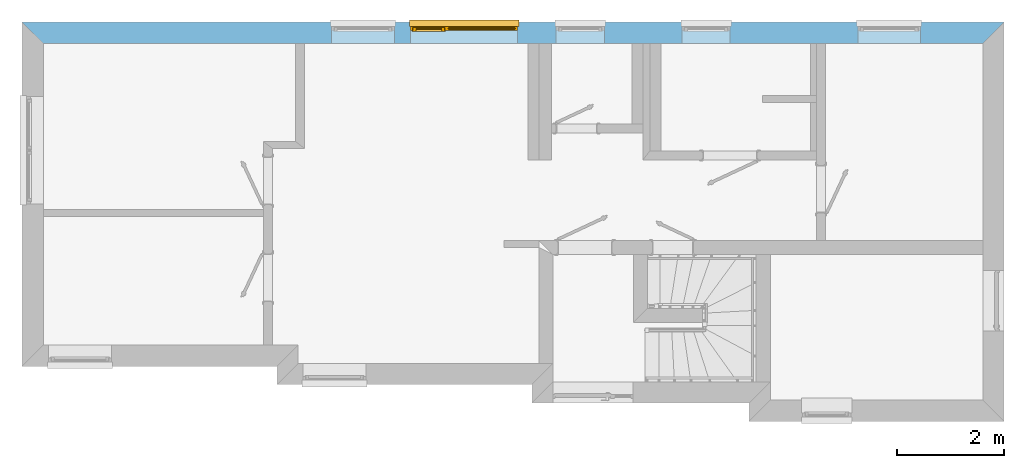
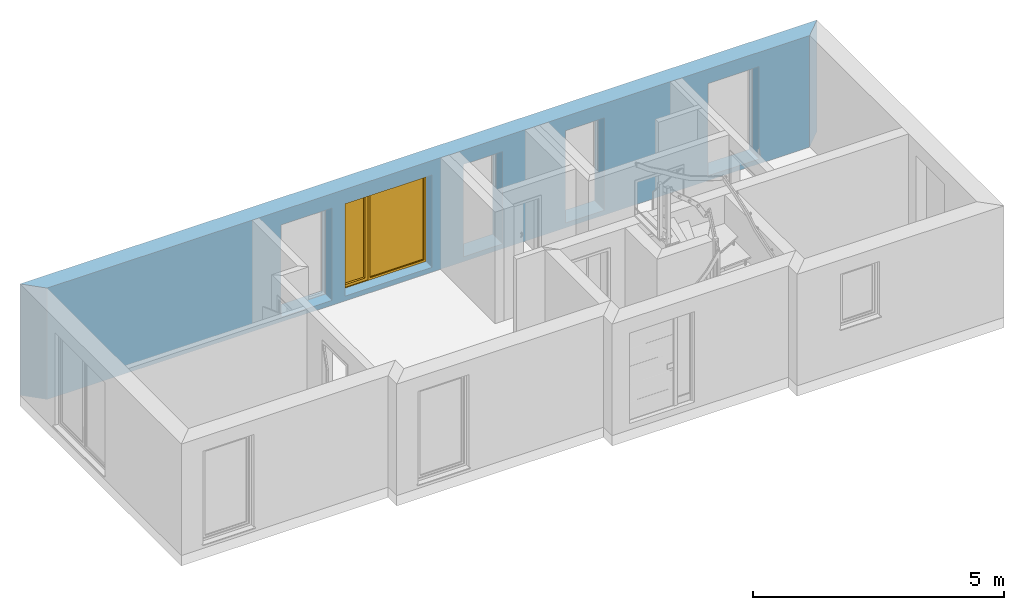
# One storey, part 8 of 13: 1 window, 5 openings, plus 1 element that does not belong to this part.
"""IFC2X3 building model written with IfcOpenShell, lengths in millimetres."""

import ifcopenshell
import ifcopenshell.guid

model = None  # the IFC model being written
_history = None  # IfcOwnerHistory: only IFC2X3 demands one
_inside = {}  # id of a spatial element -> (the spatial element, [elements in it])
_under = {}  # id of a project, library or spatial element -> (it, [spatial elements below it])
_declared = {}  # id of a project -> (the project, [libraries it declares])
_typed = {}  # id of a type object -> (the type object, [elements of that type])
_made_of = {}  # id of a material, layer set ... -> (it, [elements and type objects made of it])


def new_model(schema):
    """Start an empty IFC model of exactly this schema.

    Asked for "IFC4X3", IfcOpenShell would pick the latest addendum, in which some entities
    have other attributes; the version numbers below select the first issue.
    IFC2X3 requires an IfcOwnerHistory on every rooted entity: one is made here for all.
    """
    global model, _history
    if schema == "IFC4X3":
        model = ifcopenshell.file(schema_version=(4, 3, 0, 0))
    else:
        model = ifcopenshell.file(schema=schema)
    _inside.clear()
    _under.clear()
    _declared.clear()
    _typed.clear()
    _made_of.clear()
    _history = None
    if model.schema == "IFC2X3":
        org = make("IfcOrganization", Name="unknown")
        user = make(
            "IfcPersonAndOrganization",
            ThePerson=make("IfcPerson", FamilyName="unknown"),
            TheOrganization=org,
        )
        app = make(
            "IfcApplication",
            ApplicationDeveloper=org,
            Version="unknown",
            ApplicationFullName="unknown",
            ApplicationIdentifier="unknown",
        )
        _history = make(
            "IfcOwnerHistory",
            OwningUser=user,
            OwningApplication=app,
            ChangeAction="ADDED",
            CreationDate=0,
        )
    return model


def make(cls, **values):
    """One entity of the class cls with the attributes given. An attribute that is None is left unset."""
    return model.create_entity(
        cls, **{name: value for name, value in values.items() if value is not None}
    )


def rooted(cls, **values):
    """An entity with a GlobalId (a new one), such as an element, a storey or a relation."""
    return make(cls, GlobalId=ifcopenshell.guid.new(), OwnerHistory=_history, **values)


def si_unit(unit_type, name, prefix=None):
    """IfcSIUnit, for example si_unit("LENGTHUNIT", "METRE", prefix="MILLI")."""
    return make("IfcSIUnit", UnitType=unit_type, Prefix=prefix, Name=name)


def assignment(units):
    """IfcUnitAssignment: the units of a project."""
    return None if units is None else make("IfcUnitAssignment", Units=units)


def point(xyz):
    """IfcCartesianPoint."""
    return None if xyz is None else make("IfcCartesianPoint", Coordinates=xyz)


def direction(xyz):
    """IfcDirection."""
    return None if xyz is None else make("IfcDirection", DirectionRatios=xyz)


def frame(location, z_axis=None, x_axis=None):
    """IfcAxis2Placement3D, a coordinate frame: its origin and axes. An axis left out is left unset."""
    return make(
        "IfcAxis2Placement3D",
        Location=point(location),
        Axis=direction(z_axis),
        RefDirection=direction(x_axis),
    )


def origin_with_axes():
    """The frame at (0, 0, 0) with the z axis (0, 0, 1) and the x axis (1, 0, 0) written out."""
    return frame((0.0, 0.0, 0.0), z_axis=(0.0, 0.0, 1.0), x_axis=(1.0, 0.0, 0.0))


def place(relative_to, where):
    """IfcLocalPlacement: puts the frame where relative to a parent placement (None: the world)."""
    return make(
        "IfcLocalPlacement", PlacementRelTo=relative_to, RelativePlacement=where
    )


def context(
    kind, dimensions, precision=None, world=None, true_north=None, identifier=None
):
    """IfcGeometricRepresentationContext, for example the 3D "Model" context."""
    return make(
        "IfcGeometricRepresentationContext",
        ContextIdentifier=identifier,
        ContextType=kind,
        CoordinateSpaceDimension=dimensions,
        Precision=precision,
        WorldCoordinateSystem=world,
        TrueNorth=true_north,
    )


def project(units=None, contexts=None):
    """IfcProject with its units and contexts."""
    return rooted(
        "IfcProject",
        Name="project",
        RepresentationContexts=contexts,
        UnitsInContext=assignment(units),
    )


def spatial(cls, under=None, at=None, **own):
    """A site, building, storey or space (cls), placed at a placement, below another one or the project."""
    s = rooted(cls, ObjectPlacement=at, **own)
    if under is not None:
        _under.setdefault(under.id(), (under, []))[1].append(s)
    return s


def faces_of(points, faces, orient=None, outer=None):
    """IfcFace entities. A face is a list of loops; a loop is a list of indices into points, from 0.

    orient and outer hold one flag for each loop. By default every Orientation is true, the
    first loop of a face is its IfcFaceOuterBound and the others are IfcFaceBound.
    """
    made = []
    for i, loops in enumerate(faces):
        bounds = []
        for j, loop in enumerate(loops):
            is_outer = j == 0 if outer is None else outer[i][j]
            bounds.append(
                make(
                    "IfcFaceOuterBound" if is_outer else "IfcFaceBound",
                    Bound=make("IfcPolyLoop", Polygon=[points[k] for k in loop]),
                    Orientation=True if orient is None else orient[i][j],
                )
            )
        made.append(make("IfcFace", Bounds=bounds))
    return made


def faceted_brep(points, faces, orient=None, outer=None, voids=None):
    """IfcFacetedBrep: a solid bounded by flat faces; with voids (closed shells), ...WithVoids."""
    shared = [point(p) for p in points]
    hull = make("IfcClosedShell", CfsFaces=faces_of(shared, faces, orient, outer))
    if voids is None:
        return make("IfcFacetedBrep", Outer=hull)
    return make(
        "IfcFacetedBrepWithVoids",
        Outer=hull,
        Voids=[
            make(cls, CfsFaces=faces_of(shared, fs, o, b)) for cls, fs, o, b in voids
        ],
    )


def shape(context_of_items, identifier, shape_type, items):
    """IfcShapeRepresentation: the items that make up one representation, for example the "Body"."""
    return make(
        "IfcShapeRepresentation",
        ContextOfItems=context_of_items,
        RepresentationIdentifier=identifier,
        RepresentationType=shape_type,
        Items=items,
    )


def material(Name=None, Category=None):
    """IfcMaterial."""
    return make("IfcMaterial", Name=Name, Category=Category)


def layer(
    of_material, thickness, ventilated=None, Name=None, Category=None, Priority=None
):
    """IfcMaterialLayer: one layer of a wall or slab, of a material (None: an air gap)."""
    return make(
        "IfcMaterialLayer",
        Material=of_material,
        LayerThickness=thickness,
        IsVentilated=ventilated,
        Name=Name,
        Category=Category,
        Priority=Priority,
    )


def layer_set(layers, Name=None):
    """IfcMaterialLayerSet."""
    return make("IfcMaterialLayerSet", MaterialLayers=layers, LayerSetName=Name)


def layer_usage(for_layer_set, set_direction, sense, offset, extent=None):
    """IfcMaterialLayerSetUsage: how a layer set lies in its element."""
    return make(
        "IfcMaterialLayerSetUsage",
        ForLayerSet=for_layer_set,
        LayerSetDirection=set_direction,
        DirectionSense=sense,
        OffsetFromReferenceLine=offset,
        ReferenceExtent=extent,
    )


def made_of(thing, what):
    """Note that an element or type object is made of a material, layer set ...; save() writes the relation."""
    if what is not None:
        _made_of.setdefault(what.id(), (what, []))[1].append(thing)
    return thing


def type_object(cls, material=None, **own):
    """A type object (cls), such as IfcWallType, which elements share."""
    return made_of(rooted(cls, **own), material)


def element(
    cls,
    number,
    at=None,
    inside=None,
    cuts=None,
    type_object=None,
    material=None,
    context=None,
    identifier="Body",
    shape_type=None,
    held_by="IfcProductDefinitionShape",
    body=None,
    shapes=None,
    **own,
):
    """One element of the class cls, such as IfcWall. Its Tag is "e" and its number.

    at: its placement. inside: the storey or other place that contains it. cuts: it is an
    opening in that element (IfcRelVoidsElement). A single representation is given by context,
    identifier, shape_type and body (its items); several are given by shapes. held_by: the class
    of the entity that holds the representations. save() writes the other relations.
    """
    e = rooted(cls, Tag="e%d" % number, ObjectPlacement=at, **own)
    if body is not None:
        shapes = [shape(context, identifier, shape_type, body)]
    if shapes is not None:
        e.Representation = make(held_by, Representations=shapes)
    if inside is not None:
        _inside.setdefault(inside.id(), (inside, []))[1].append(e)
    if cuts is not None:
        rooted(
            "IfcRelVoidsElement", RelatingBuildingElement=cuts, RelatedOpeningElement=e
        )
    if type_object is not None:
        _typed.setdefault(type_object.id(), (type_object, []))[1].append(e)
    return made_of(e, material)


def fill(opening, filler):
    """IfcRelFillsElement: the door or window that sits in an opening."""
    return rooted(
        "IfcRelFillsElement",
        RelatingOpeningElement=opening,
        RelatedBuildingElement=filler,
    )


def aggregate(whole, parts):
    """IfcRelAggregates: a whole, such as a stair, and the parts it consists of."""
    return rooted("IfcRelAggregates", RelatingObject=whole, RelatedObjects=parts)


def save(model, path):
    """Write the relations noted so far, then the file.

    IfcRelAggregates (storeys below a building ...), IfcRelContainedInSpatialStructure (elements
    in a storey), IfcRelDefinesByType, IfcRelAssociatesMaterial and IfcRelDeclares: one each for
    every whole, place, type object, material and project.
    """
    for whole, parts in _under.values():
        aggregate(whole, parts)
    for where, things in _inside.values():
        rooted(
            "IfcRelContainedInSpatialStructure",
            RelatedElements=things,
            RelatingStructure=where,
        )
    for kind, things in _typed.values():
        rooted("IfcRelDefinesByType", RelatedObjects=things, RelatingType=kind)
    for what, things in _made_of.values():
        rooted("IfcRelAssociatesMaterial", RelatedObjects=things, RelatingMaterial=what)
    for by, libraries in _declared.values():
        rooted("IfcRelDeclares", RelatingContext=by, RelatedDefinitions=libraries)
    model.write(path)


model = new_model("IFC2X3")

# Units and contexts
model_context = context("Model", 3, world=origin_with_axes())
ifc_project = project(units=[si_unit("LENGTHUNIT", "METRE", prefix="MILLI")], contexts=[model_context])

# Site, building, storey
site_placement = place(None, origin_with_axes())
site = spatial("IfcSite", under=ifc_project, at=site_placement, Name="Site", CompositionType="ELEMENT")
building_placement = place(site_placement, origin_with_axes())
building = spatial("IfcBuilding", under=site, at=building_placement, Name="?", CompositionType="ELEMENT")
storey_placement = place(building_placement, origin_with_axes())
storey = spatial("IfcBuildingStorey", under=building, at=storey_placement, Name="Erdgeschoß", CompositionType="ELEMENT", Elevation=0.0)

# Wall, openings, window
ifc_material = material(Name="Material_AW")
ifc_layer = layer(ifc_material, 395.0, ventilated=False)
ifc_layer_set = layer_set([ifc_layer], Name="MaterialLayerSet_AW")
ifc_layer_usage = layer_usage(ifc_layer_set, "AXIS2", "NEGATIVE", 197.5)
wall_placement = place(storey_placement, frame((197.5, -197.5, 0.0), z_axis=(0.0, 0.0, 1.0), x_axis=(1.0, 0.0, 0.0)))
wall = element("IfcWall", 1, at=wall_placement, inside=storey, material=ifc_layer_usage, Name="AW-01", context=model_context, shape_type="Brep", body=[
    faceted_brep([(17707.5008600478, -197.5, 0.0), (17707.5008600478, -197.5, 2707.0), (197.5, -197.5, 2707.0), (197.5, -197.5, 0.0), (18102.5001275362, 197.499999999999, 0.0), (18102.5001275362, 197.499999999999, 150.0), (18102.5001275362, 197.499999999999, 2707.0), (17707.5008600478, -197.500000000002, 2707.0), (17707.5008600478, -197.500000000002, 0.0), (-197.500233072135, 197.5, 0.0), (-197.500233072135, 197.5, 150.0), (5569.5, 197.5, 150.0), (5569.5, 197.5, 116.0), (6739.5, 197.5, 116.0), (6739.5, 197.5, 150.0), (7039.5, 197.5, 150.0), (7039.5, 197.5, 116.0), (9039.5, 197.5, 116.0), (9039.5, 197.5, 150.0), (9755.5, 197.5, 150.0), (9755.5, 197.5, 116.0), (10655.5, 197.5, 116.0), (10655.5, 197.5, 150.0), (12099.5, 197.5, 150.0), (12099.5, 197.5, 116.0), (12999.5, 197.5, 116.0), (12999.5, 197.5, 150.0), (15377.5, 197.5, 150.0), (15377.5, 197.5, 116.0), (16547.5, 197.5, 116.0), (16547.5, 197.5, 150.0), (18102.5001275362, 197.5, 150.0), (18102.5001275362, 197.5, 0.0), (-197.500233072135, 197.5, 150.0), (-197.500233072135, 197.5, 2707.0), (18102.5001275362, 197.5, 2707.0), (18102.5001275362, 197.5, 150.0), (16547.5, 197.5, 150.0), (16547.5, 197.5, 116.0), (15377.5, 197.5, 116.0), (15377.5, 197.5, 150.0), (12999.5, 197.5, 150.0), (12999.5, 197.5, 116.0), (12099.5, 197.5, 116.0), (12099.5, 197.5, 150.0), (10655.5, 197.5, 150.0), (10655.5, 197.5, 116.0), (9755.5, 197.5, 116.0), (9755.5, 197.5, 150.0), (9039.5, 197.5, 150.0), (9039.5, 197.5, 116.0), (7039.5, 197.5, 116.0), (7039.5, 197.5, 150.0), (6739.5, 197.5, 150.0), (6739.5, 197.5, 116.0), (5569.5, 197.5, 116.0), (5569.5, 197.5, 150.0), (197.5, -197.5, 0.0), (197.5, -197.5, 2707.0), (-197.500233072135, 197.5, 2707.0), (-197.500233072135, 197.5, 150.0), (-197.500233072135, 197.5, 0.0), (197.5, -197.5, 0.0), (-197.500233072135, 197.5, 0.0), (18102.5001275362, 197.5, 0.0), (17707.5008600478, -197.5, 0.0), (-197.500233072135, 197.5, 2707.0), (197.5, -197.5, 2707.0), (17707.5008600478, -197.5, 2707.0), (18102.5001275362, 197.5, 2707.0)], [[[0, 1, 2, 3]], [[4, 5, 6, 7, 8]], [[9, 10, 11, 12, 13, 14, 15, 16, 17, 18, 19, 20, 21, 22, 23, 24, 25, 26, 27, 28, 29, 30, 31, 32]], [[33, 34, 35, 36, 37, 38, 39, 40, 41, 42, 43, 44, 45, 46, 47, 48, 49, 50, 51, 52, 53, 54, 55, 56]], [[57, 58, 59, 60, 61]], [[62, 63, 64, 65]], [[66, 67, 68, 69]]]),
])
opening_1_placement = place(wall_placement, frame((5569.5, 0.0, 116.0), z_axis=(0.0, 0.0, 1.0), x_axis=(1.0, 0.0, 0.0)))
element("IfcOpeningElement", 2, at=opening_1_placement, cuts=wall, Name="AW-01|FE01", context=model_context, shape_type="Brep", body=[
    faceted_brep([(0.0, 207.5, 0.0), (0.0, 207.5, 2244.0), (1170.0, 207.5, 2244.0), (1170.0, 207.5, 0.0), (0.0, -207.5, 0.0), (0.0, -207.5, 2244.0), (0.0, 207.5, 2244.0), (0.0, 207.5, 0.0), (1170.0, -207.5, 0.0), (0.0, -207.5, 0.0), (0.0, 207.5, 0.0), (1170.0, 207.5, 0.0), (1170.0, -207.5, 2244.0), (1170.0, -207.5, 0.0), (1170.0, 207.5, 0.0), (1170.0, 207.5, 2244.0), (0.0, -207.5, 2244.0), (1170.0, -207.5, 2244.0), (1170.0, 207.5, 2244.0), (0.0, 207.5, 2244.0), (0.0, -207.5, 0.0), (1170.0, -207.5, 0.0), (1170.0, -207.5, 2244.0), (0.0, -207.5, 2244.0)], [[[0, 1, 2, 3]], [[4, 5, 6, 7]], [[8, 9, 10, 11]], [[12, 13, 14, 15]], [[16, 17, 18, 19]], [[20, 21, 22, 23]]]),
])
opening_2_placement = place(wall_placement, frame((7039.5, 0.0, 116.0), z_axis=(0.0, 0.0, 1.0), x_axis=(1.0, 0.0, 0.0)))
opening_2 = element("IfcOpeningElement", 3, at=opening_2_placement, cuts=wall, Name="AW-01|FE02", context=model_context, shape_type="Brep", body=[
    faceted_brep([(0.0, 207.5, 0.0), (0.0, 207.5, 2244.0), (2000.0, 207.5, 2244.0), (2000.0, 207.5, 0.0), (0.0, -207.5, 0.0), (0.0, -207.5, 2244.0), (0.0, 207.5, 2244.0), (0.0, 207.5, 0.0), (2000.0, -207.5, 0.0), (0.0, -207.5, 0.0), (0.0, 207.5, 0.0), (2000.0, 207.5, 0.0), (2000.0, -207.5, 2244.0), (2000.0, -207.5, 0.0), (2000.0, 207.5, 0.0), (2000.0, 207.5, 2244.0), (0.0, -207.5, 2244.0), (2000.0, -207.5, 2244.0), (2000.0, 207.5, 2244.0), (0.0, 207.5, 2244.0), (0.0, -207.5, 0.0), (2000.0, -207.5, 0.0), (2000.0, -207.5, 2244.0), (0.0, -207.5, 2244.0)], [[[0, 1, 2, 3]], [[4, 5, 6, 7]], [[8, 9, 10, 11]], [[12, 13, 14, 15]], [[16, 17, 18, 19]], [[20, 21, 22, 23]]]),
])
opening_3_placement = place(wall_placement, frame((9755.5, 0.0, 116.0), z_axis=(0.0, 0.0, 1.0), x_axis=(1.0, 0.0, 0.0)))
element("IfcOpeningElement", 4, at=opening_3_placement, cuts=wall, Name="AW-01|FE03", context=model_context, shape_type="Brep", body=[
    faceted_brep([(0.0, 207.5, 0.0), (0.0, 207.5, 2244.0), (900.0, 207.5, 2244.0), (900.0, 207.5, 0.0), (0.0, -207.5, 0.0), (0.0, -207.5, 2244.0), (0.0, 207.5, 2244.0), (0.0, 207.5, 0.0), (900.0, -207.5, 0.0), (0.0, -207.5, 0.0), (0.0, 207.5, 0.0), (900.0, 207.5, 0.0), (900.0, -207.5, 2244.0), (900.0, -207.5, 0.0), (900.0, 207.5, 0.0), (900.0, 207.5, 2244.0), (0.0, -207.5, 2244.0), (900.0, -207.5, 2244.0), (900.0, 207.5, 2244.0), (0.0, 207.5, 2244.0), (0.0, -207.5, 0.0), (900.0, -207.5, 0.0), (900.0, -207.5, 2244.0), (0.0, -207.5, 2244.0)], [[[0, 1, 2, 3]], [[4, 5, 6, 7]], [[8, 9, 10, 11]], [[12, 13, 14, 15]], [[16, 17, 18, 19]], [[20, 21, 22, 23]]]),
])
opening_4_placement = place(wall_placement, frame((12099.5, 0.0, 116.0), z_axis=(0.0, 0.0, 1.0), x_axis=(1.0, 0.0, 0.0)))
element("IfcOpeningElement", 5, at=opening_4_placement, cuts=wall, Name="AW-01|FE04", context=model_context, shape_type="Brep", body=[
    faceted_brep([(0.0, 207.5, 0.0), (0.0, 207.5, 2244.0), (900.0, 207.5, 2244.0), (900.0, 207.5, 0.0), (0.0, -207.5, 0.0), (0.0, -207.5, 2244.0), (0.0, 207.5, 2244.0), (0.0, 207.5, 0.0), (900.0, -207.5, 0.0), (0.0, -207.5, 0.0), (0.0, 207.5, 0.0), (900.0, 207.5, 0.0), (900.0, -207.5, 2244.0), (900.0, -207.5, 0.0), (900.0, 207.5, 0.0), (900.0, 207.5, 2244.0), (0.0, -207.5, 2244.0), (900.0, -207.5, 2244.0), (900.0, 207.5, 2244.0), (0.0, 207.5, 2244.0), (0.0, -207.5, 0.0), (900.0, -207.5, 0.0), (900.0, -207.5, 2244.0), (0.0, -207.5, 2244.0)], [[[0, 1, 2, 3]], [[4, 5, 6, 7]], [[8, 9, 10, 11]], [[12, 13, 14, 15]], [[16, 17, 18, 19]], [[20, 21, 22, 23]]]),
])
opening_5_placement = place(wall_placement, frame((15377.5, 0.0, 116.0), z_axis=(0.0, 0.0, 1.0), x_axis=(1.0, 0.0, 0.0)))
element("IfcOpeningElement", 6, at=opening_5_placement, cuts=wall, Name="AW-01|FE05", context=model_context, shape_type="Brep", body=[
    faceted_brep([(0.0, 207.5, 0.0), (0.0, 207.5, 2244.0), (1170.0, 207.5, 2244.0), (1170.0, 207.5, 0.0), (0.0, -207.5, 0.0), (0.0, -207.5, 2244.0), (0.0, 207.5, 2244.0), (0.0, 207.5, 0.0), (1170.0, -207.5, 0.0), (0.0, -207.5, 0.0), (0.0, 207.5, 0.0), (1170.0, 207.5, 0.0), (1170.0, -207.5, 2244.0), (1170.0, -207.5, 0.0), (1170.0, 207.5, 0.0), (1170.0, 207.5, 2244.0), (0.0, -207.5, 2244.0), (1170.0, -207.5, 2244.0), (1170.0, 207.5, 2244.0), (0.0, 207.5, 2244.0), (0.0, -207.5, 0.0), (1170.0, -207.5, 0.0), (1170.0, -207.5, 2244.0), (0.0, -207.5, 2244.0)], [[[0, 1, 2, 3]], [[4, 5, 6, 7]], [[8, 9, 10, 11]], [[12, 13, 14, 15]], [[16, 17, 18, 19]], [[20, 21, 22, 23]]]),
])
window_style = type_object("IfcWindowStyle", Name="FE02", ConstructionType="NOTDEFINED", OperationType="DOUBLE_PANEL_VERTICAL", ParameterTakesPrecedence=False, Sizeable=False)
window_placement = place(opening_2_placement, frame((2000.0, 77.5, 0.0), z_axis=(0.0, 0.0, 1.0), x_axis=(-1.0, 0.0, 0.0)))
window = element("IfcWindow", 7, at=window_placement, inside=storey, type_object=window_style, Name="FE02", OverallHeight=2244.0, OverallWidth=2000.0, context=model_context, shape_type="Brep", body=[
    faceted_brep([(0.0, -36.0, 0.0), (2000.0, -36.0, 0.0), (1985.0, -36.0, 15.0), (15.0, -36.0, 15.0), (15.0, 36.0, 15.0), (1985.0, 36.0, 15.0), (2000.0, 36.0, 0.0), (0.0, 36.0, 0.0), (0.0, 36.0, 0.0), (2000.0, 36.0, 0.0), (2000.0, -36.0, 0.0), (0.0, -36.0, 0.0), (2000.0, -36.0, 0.0), (2000.0, -36.0, 2244.0), (1985.0, -36.0, 2229.0), (1985.0, -36.0, 15.0), (1985.0, 36.0, 15.0004730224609), (1985.0, 36.0, 2229.00048828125), (2000.0, 36.0, 2244.00048828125), (2000.0, 36.0, 0.0004730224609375), (2000.0, 36.0, 0.0), (2000.0, 36.0, 2244.0), (2000.0, -36.0, 2244.0), (2000.0, -36.0, 0.0), (2000.0, -36.0, 2244.0), (0.0, -36.0, 2244.0), (15.0, -36.0, 2229.0), (1985.0, -36.0, 2229.0), (1985.0, 36.0, 2229.0), (15.0, 36.0, 2229.0), (0.0, 36.0, 2244.0), (2000.0, 36.0, 2244.0), (2000.0, 36.0, 2244.0), (0.0, 36.0, 2244.0), (0.0, -36.0, 2244.0), (2000.0, -36.0, 2244.0), (0.0, -36.0, 2244.0), (0.0, -36.0, 0.0), (15.0, -36.0, 15.0), (15.0, -36.0, 2229.0), (15.0, 36.0, 2228.99951171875), (15.0, 36.0, 14.99951171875), (0.0, 36.0, -0.00048828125), (0.0, 36.0, 2243.99951171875), (0.0, 36.0, 2244.0), (0.0, 36.0, 0.0), (0.0, -36.0, 0.0), (0.0, -36.0, 2244.0), (1330.0, 36.0, 15.0), (15.0, 36.0, 15.0), (53.0, 36.0, 53.0), (1292.0, 36.0, 53.0), (1292.0, 36.0, 53.0), (53.0, 36.0, 53.0), (60.0, 24.9985353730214, 60.0008545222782), (1285.0, 24.9985353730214, 60.0008545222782), (1285.0, 25.0, 60.0), (60.0, 25.0, 60.0), (60.0, 12.0, 60.0), (1285.0, 12.0, 60.0), (1285.0, -12.0, 60.0), (60.0, -12.0, 60.0), (60.0, -25.0, 60.0), (1285.0, -25.0, 60.0), (1285.0, 12.0, 60.0), (60.0, 12.0, 60.0), (43.0, 12.0, 43.0), (1302.0, 12.0, 43.0), (1301.99951171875, 12.0, 43.0), (43.0, 12.0, 43.0), (43.0, -12.0, 43.0), (1301.99951171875, -12.0, 43.0), (1301.99951171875, -12.0, 43.0), (43.0, -12.0, 43.0), (60.0, -12.0, 60.0), (1284.99951171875, -12.0, 60.0), (1285.0, -25.0, 60.0), (60.0, -25.0, 60.0), (53.0, -36.0014646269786, 52.9991454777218), (1292.0, -36.0014646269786, 52.9991454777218), (1292.0, -36.0, 53.0), (53.0, -36.0, 53.0), (15.0, -36.0, 15.0), (1330.0, -36.0, 15.0), (1330.0, 36.0, 2229.0), (1358.0, 36.0, 2201.0), (1358.0, 36.0, 43.0), (1330.0, 36.0, 15.0), (1292.0, 36.0, 53.0), (1292.0, 36.0, 2191.0), (1292.0, 35.9999999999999, 2191.00048828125), (1292.0, 35.9999999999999, 53.00048828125), (1284.9990234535, 24.9987789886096, 60.00048828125), (1284.9990234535, 24.9987789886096, 2184.00048828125), (1285.0, 25.0, 2184.0), (1285.0, 25.0, 60.0), (1285.0, 12.0, 60.0), (1285.0, 12.0, 2184.0), (1285.0, -12.0, 2184.0), (1285.0, -12.0, 60.0), (1285.0, -25.0, 60.0), (1285.0, -25.0, 2184.0), (1285.0, 12.0, 2184.0), (1285.0, 12.0, 60.0), (1302.0, 12.0, 43.0), (1302.0, 12.0, 2201.0), (1302.0, 12.0, 2201.00024414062), (1302.0, 12.0, 43.000244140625), (1302.0, -12.0, 43.000244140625), (1302.0, -12.0, 2201.00024414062), (1302.0, -12.0, 2201.00024414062), (1302.0, -12.0, 43.000244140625), (1285.0, -12.0, 60.000244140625), (1285.0, -12.0, 2184.00024414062), (1285.0, -25.0, 2184.0), (1285.0, -25.0, 60.0), (1292.00146472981, -36.0012206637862, 53.0), (1292.00146472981, -36.0012206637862, 2191.0), (1292.0, -36.0, 2191.00048828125), (1292.0, -36.0, 53.00048828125), (1330.0, -36.0, 15.00048828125), (1368.0, -36.0, 53.00048828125), (1368.0, -36.0, 2191.00048828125), (1330.0, -36.0, 2229.00048828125), (1358.0, 36.0, 42.9997711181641), (1358.0, 36.0, 2200.99975585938), (1358.0, -21.0, 2200.99975585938), (1358.0, -21.0, 42.9997711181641), (1358.0, -21.0, 42.9997711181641), (1358.0, -21.0, 2200.99975585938), (1375.0, -21.0, 2183.99975585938), (1375.0, -21.0, 59.9997711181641), (1375.0, -21.0, 60.0000305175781), (1375.0, -21.0, 2184.0), (1375.0, -25.0, 2184.0), (1375.0, -25.0, 60.0000305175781), (1375.0, -25.0, 60.0000305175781), (1375.0, -25.0, 2184.0), (1367.9990234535, -36.0012210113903, 2191.0), (1367.9990234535, -36.0012210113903, 53.0000305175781), (15.0, 36.0, 2229.0), (1330.0, 36.0, 2229.0), (1292.0, 36.0, 2191.0), (53.0, 36.0, 2191.0), (52.9990234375, 36.0, 2191.0), (1291.9990234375, 36.0, 2191.0), (1284.9990234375, 24.9985352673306, 2183.99902324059), (59.9990234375, 24.9985352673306, 2183.99902324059), (60.0, 25.0, 2184.0), (1285.0, 25.0, 2184.0), (1285.0, 12.0, 2184.0), (60.0, 12.0, 2184.0), (60.0, -12.0, 2184.0), (1285.0, -12.0, 2184.0), (1285.0, -25.0, 2184.0), (60.0, -25.0, 2184.0), (60.0, 12.0, 2184.0), (1285.0, 12.0, 2184.0), (1302.0, 12.0, 2201.0), (43.0, 12.0, 2201.0), (43.0, 12.0, 2201.0), (1302.0, 12.0, 2201.0), (1302.0, -12.0, 2201.0), (43.0, -12.0, 2201.0), (43.0, -12.0, 2201.0), (1302.0, -12.0, 2201.0), (1285.0, -12.0, 2184.0), (60.0, -12.0, 2184.0), (60.0, -25.0, 2184.0), (1285.0, -25.0, 2184.0), (1292.0, -36.0014647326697, 2191.00097675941), (53.0, -36.0014647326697, 2191.00097675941), (52.9990234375, -36.0, 2191.0), (1291.9990234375, -36.0, 2191.0), (1329.9990234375, -36.0, 2229.0), (14.9990234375, -36.0, 2229.0), (15.0, 36.0, 15.0), (15.0, 36.0, 2229.0), (53.0, 36.0, 2191.0), (53.0, 36.0, 53.0), (53.0, 36.0, 53.0000915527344), (53.0, 36.0, 2191.0), (60.0009765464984, 24.9987789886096, 2184.0), (60.0009765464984, 24.9987789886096, 60.0000915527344), (60.0, 25.0, 60.0000305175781), (60.0, 25.0, 2184.0), (60.0, 12.0, 2184.0), (60.0, 12.0, 60.0000305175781), (60.0, -12.0, 60.0000305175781), (60.0, -12.0, 2184.0), (60.0, -25.0, 2184.0), (60.0, -25.0, 60.0000305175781), (60.0, 12.0, 60.0000305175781), (60.0, 12.0, 2184.0), (43.0, 12.0, 2201.0), (43.0, 12.0, 43.0000305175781), (43.0, 12.0, 43.0004577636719), (43.0, 12.0, 2201.00048828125), (43.0, -12.0, 2201.00048828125), (43.0, -12.0, 43.0004577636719), (43.0, -12.0, 43.0004577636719), (43.0, -12.0, 2201.00048828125), (60.0, -12.0, 2184.00048828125), (60.0, -12.0, 60.0004577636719), (60.0, -25.0, 60.0000305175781), (60.0, -25.0, 2184.0), (52.9990234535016, -36.0012210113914, 2191.0), (52.9990234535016, -36.0012210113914, 53.0000305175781), (53.0, -36.0, 53.0000915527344), (53.0, -36.0, 2191.0), (15.0, -36.0, 2229.0), (15.0, -36.0, 15.0000915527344), (1985.0, 36.0, 15.0), (1330.0, 36.0, 15.0), (1358.0, 36.0, 43.0), (1957.0, 36.0, 43.0), (1957.0, 36.0, 43.0), (1358.0, 36.0, 43.0), (1358.0, -21.0, 43.0), (1957.0, -21.0, 43.0), (1957.0, -21.0, 43.0), (1358.0, -21.0, 43.0), (1375.0, -21.0, 60.0), (1940.0, -21.0, 60.0), (1940.0, -21.0, 60.0), (1375.0, -21.0, 60.0), (1375.0, -25.0, 60.0), (1940.0, -25.0, 60.0), (1940.0, -25.0, 60.0), (1375.0, -25.0, 60.0), (1368.0, -36.0014646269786, 52.9991454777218), (1947.0, -36.0014646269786, 52.9991454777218), (1947.0, -36.0, 53.0), (1368.0, -36.0, 53.0), (1330.0, -36.0, 15.0), (1985.0, -36.0, 15.0), (1985.0, 36.0, 2229.0), (1985.0, 36.0, 15.0), (1957.0, 36.0, 43.0), (1957.0, 36.0, 2201.0), (1957.0, 36.0, 2200.99951171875), (1957.0, 36.0, 42.99951171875), (1957.0, -21.0, 42.99951171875), (1957.0, -21.0, 2200.99951171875), (1957.0, -21.0, 2200.99951171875), (1957.0, -21.0, 42.99951171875), (1940.0, -21.0, 59.99951171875), (1940.0, -21.0, 2183.99951171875), (1940.0, -21.0, 2184.0), (1940.0, -21.0, 60.0), (1940.0, -25.0, 60.0), (1940.0, -25.0, 2184.0), (1940.0, -25.0, 2184.0), (1940.0, -25.0, 60.0), (1947.000488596, -36.0014650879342, 53.0), (1947.000488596, -36.0014650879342, 2191.0), (1947.0, -36.0, 2191.0), (1947.0, -36.0, 53.0), (1985.0, -36.0, 15.0), (1985.0, -36.0, 2229.0), (1330.0, 36.0, 2229.0), (1985.0, 36.0, 2229.0), (1957.0, 36.0, 2201.0), (1358.0, 36.0, 2201.0), (1358.0, 36.0, 2201.0), (1957.0, 36.0, 2201.0), (1957.0, -21.0, 2201.0), (1358.0, -21.0, 2201.0), (1358.0, -21.0, 2201.0), (1957.0, -21.0, 2201.0), (1940.0, -21.0, 2184.0), (1375.0, -21.0, 2184.0), (1375.0, -21.0, 2184.0), (1940.0, -21.0, 2184.0), (1940.0, -25.0, 2184.0), (1375.0, -25.0, 2184.0), (1375.0, -25.0, 2184.0), (1940.0, -25.0, 2184.0), (1947.0, -36.0014647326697, 2191.00097675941), (1368.0, -36.0014647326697, 2191.00097675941), (1368.0, -36.0, 2191.0), (1947.0, -36.0, 2191.0), (1985.0, -36.0, 2229.0), (1330.0, -36.0, 2229.0), (1967.00048828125, 52.0, 33.0), (1348.00048828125, 52.0, 33.0), (1411.00048828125, 52.0, 96.0), (1904.00048828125, 52.0, 96.0), (1904.0, 52.0, 96.0), (1411.0, 52.0, 96.0), (1425.0, 19.9985349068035, 110.000610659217), (1890.0, 19.9985349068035, 110.000610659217), (1890.00048828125, 20.0, 110.0), (1425.00048828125, 20.0, 110.0), (1418.00048828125, 20.0, 103.0), (1897.00048828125, 20.0, 103.0), (1897.0, 20.0, 103.0), (1418.0, 20.0, 103.0), (1418.0, -4.0, 103.0), (1897.0, -4.0, 103.0), (1897.0, -4.0, 103.0), (1418.0, -4.0, 103.0), (1425.0, -4.0, 110.0), (1890.0, -4.0, 110.0), (1890.00048828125, -3.99999999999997, 110.0), (1425.00048828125, -3.99999999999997, 110.0), (1417.00048828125, -21.0014648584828, 101.999267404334), (1898.00048828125, -21.0014648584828, 101.999267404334), (1898.0, -21.0, 102.0), (1417.0, -21.0, 102.0), (1366.0, -21.0, 51.0), (1949.0, -21.0, 51.0), (1949.0, -21.0, 51.0), (1366.0, -21.0, 51.0), (1366.0, 36.0, 51.0), (1949.0, 36.0, 51.0), (1949.0, 36.0, 51.0), (1366.0, 36.0, 51.0), (1348.0, 36.0, 33.0), (1967.0, 36.0, 33.0), (1967.00048828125, 36.0, 33.0), (1348.00048828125, 36.0, 33.0), (1348.00048828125, 52.0, 33.0), (1967.00048828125, 52.0, 33.0), (1967.0, 52.0, 2210.99951171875), (1967.0, 52.0, 32.99951171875), (1904.0, 52.0, 95.99951171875), (1904.0, 52.0, 2147.99951171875), (1904.0, 52.0, 2147.99951171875), (1904.0, 52.0, 95.99951171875), (1889.99999956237, 19.9985341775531, 109.99951171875), (1889.99999956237, 19.9985341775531, 2133.99951171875), (1890.0, 20.0, 2133.99951171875), (1890.0, 20.0, 109.99951171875), (1897.0, 20.0, 102.99951171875), (1897.0, 20.0, 2140.99951171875), (1897.0, 20.0, 2140.99951171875), (1897.0, 20.0, 102.99951171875), (1897.0, -4.0, 102.99951171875), (1897.0, -4.0, 2140.99951171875), (1897.0, -4.0, 2140.99951171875), (1897.0, -4.0, 102.99951171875), (1890.0, -4.0, 109.99951171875), (1890.0, -4.0, 2133.99951171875), (1890.0, -4.0, 2133.99951171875), (1890.0, -4.0, 109.99951171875), (1898.00048839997, -21.0017084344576, 101.99951171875), (1898.00048839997, -21.0017084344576, 2141.99951171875), (1898.0, -21.0, 2142.0), (1898.0, -21.0, 102.0), (1949.0, -21.0, 51.0), (1949.0, -21.0, 2193.0), (1949.0, -21.0, 2192.99951171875), (1949.0, -21.0, 50.99951171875), (1949.0, 36.0, 50.99951171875), (1949.0, 36.0, 2192.99951171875), (1949.0, 36.0, 2192.99951171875), (1949.0, 36.0, 50.99951171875), (1967.0, 36.0, 32.99951171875), (1967.0, 36.0, 2210.99951171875), (1967.0, 36.0, 2210.99951171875), (1967.0, 36.0, 32.99951171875), (1967.0, 52.0, 32.99951171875), (1967.0, 52.0, 2210.99951171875), (1348.0, 52.0, 2211.0), (1967.0, 52.0, 2211.0), (1904.0, 52.0, 2148.0), (1411.0, 52.0, 2148.0), (1411.0, 52.0, 2148.0), (1904.0, 52.0, 2148.0), (1890.0, 19.9985360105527, 2133.99951201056), (1425.0, 19.9985360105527, 2133.99951201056), (1425.0, 20.0, 2134.0), (1890.0, 20.0, 2134.0), (1897.0, 20.0, 2141.0), (1418.0, 20.0, 2141.0), (1418.0, 20.0, 2141.0), (1897.0, 20.0, 2141.0), (1897.0, -4.0, 2141.0), (1418.0, -4.0, 2141.0), (1418.0, -4.0, 2141.0), (1897.0, -4.0, 2141.0), (1890.0, -4.0, 2134.0), (1425.0, -4.0, 2134.0), (1425.0, -4.0, 2134.0), (1890.0, -4.0, 2134.0), (1898.0, -21.0014648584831, 2142.00073259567), (1417.0, -21.0014648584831, 2142.00073259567), (1417.00048828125, -21.0, 2142.0), (1898.00048828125, -21.0, 2142.0), (1949.00048828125, -21.0, 2193.0), (1366.00048828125, -21.0, 2193.0), (1366.0, -21.0, 2193.0), (1949.0, -21.0, 2193.0), (1949.0, 36.0, 2193.0), (1366.0, 36.0, 2193.0), (1366.0, 36.0, 2193.0), (1949.0, 36.0, 2193.0), (1967.0, 36.0, 2211.0), (1348.0, 36.0, 2211.0), (1348.0, 36.0, 2211.0), (1967.0, 36.0, 2211.0), (1967.0, 52.0, 2211.0), (1348.0, 52.0, 2211.0), (1348.0, 52.0, 32.9996795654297), (1348.0, 52.0, 2210.99975585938), (1411.0, 52.0, 2147.99975585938), (1411.0, 52.0, 95.9996795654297), (1411.0, 52.0, 95.9998474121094), (1411.0, 52.0, 2147.99975585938), (1425.00097646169, 19.9987802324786, 2133.99975585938), (1425.00097646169, 19.9987802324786, 109.999847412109), (1425.0, 20.0, 109.999740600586), (1425.0, 20.0, 2133.99975585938), (1418.0, 20.0, 2140.99975585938), (1418.0, 20.0, 102.999740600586), (1418.0, 20.0, 102.999801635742), (1418.0, 20.0, 2140.99975585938), (1418.0, -4.0, 2140.99975585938), (1418.0, -4.0, 102.999801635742), (1418.0, -4.0, 102.999801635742), (1418.0, -4.0, 2140.99975585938), (1425.0, -4.0, 2133.99975585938), (1425.0, -4.0, 109.999801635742), (1425.0, -4.0000000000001, 109.999740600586), (1425.0, -4.0000000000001, 2133.99975585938), (1416.99951158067, -21.0014648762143, 2141.99975585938), (1416.99951158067, -21.0014648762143, 101.999740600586), (1417.0, -21.0, 101.999908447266), (1417.0, -21.0, 2142.0), (1366.0, -21.0, 2193.0), (1366.0, -21.0, 50.9999084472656), (1366.0, -21.0, 50.9998321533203), (1366.0, -21.0, 2192.99975585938), (1366.0, 36.0, 2192.99975585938), (1366.0, 36.0, 50.9998321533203), (1366.0, 36.0, 50.9998321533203), (1366.0, 36.0, 2192.99975585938), (1348.0, 36.0, 2210.99975585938), (1348.0, 36.0, 32.9998321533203), (1348.0, 36.0, 32.9996795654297), (1348.0, 36.0, 2210.99975585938), (1348.0, 52.0, 2210.99975585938), (1348.0, 52.0, 32.9996795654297), (60.0, 12.0, 60.0), (60.0, 12.0, 2184.0), (1285.0, 12.0, 2184.0), (1285.0, 12.0, 60.0), (60.0, -12.0, 60.0), (1285.0, -12.0, 60.0), (1285.0, -12.0, 2184.0), (60.0, -12.0, 2184.0), (1425.0, 20.0, 110.0), (1425.0, 20.0, 2134.0), (1890.0, 20.0, 2134.0), (1890.0, 20.0, 110.0), (1425.0, -4.0, 110.0), (1890.0, -4.0, 110.0), (1890.0, -4.0, 2134.0), (1425.0, -4.0, 2134.0), (-20.0, -36.0, 0.5), (-20.0, -160.0, 0.5), (2020.0, -160.0, 0.5), (2020.0, -36.0, 0.5), (-20.0, -36.0, -19.5), (-20.0, -36.0, 0.5), (2020.0, -36.0, 0.5), (2020.0, -36.0, -19.5), (-20.0, -160.0, -19.5), (-20.0, -36.0, -19.5), (2020.0, -36.0, -19.5), (2020.0, -160.0, -19.5), (-20.0, -160.0, 0.5), (-20.0, -160.0, -19.5), (2020.0, -160.0, -19.5), (2020.0, -160.0, 0.5), (-20.0, -160.0, -19.5), (-20.0, -160.0, 0.5), (-20.0, -36.0, 0.5), (-20.0, -36.0, -19.5), (2020.0, -160.0, 0.5), (2020.0, -160.0, -19.5), (2020.0, -36.0, -19.5), (2020.0, -36.0, 0.5)], [[[0, 1, 2, 3]], [[4, 5, 6, 7]], [[8, 9, 10, 11]], [[12, 13, 14, 15]], [[16, 17, 18, 19]], [[20, 21, 22, 23]], [[24, 25, 26, 27]], [[28, 29, 30, 31]], [[32, 33, 34, 35]], [[36, 37, 38, 39]], [[40, 41, 42, 43]], [[44, 45, 46, 47]], [[48, 49, 50, 51]], [[52, 53, 54, 55]], [[56, 57, 58, 59]], [[60, 61, 62, 63]], [[64, 65, 66, 67]], [[68, 69, 70, 71]], [[72, 73, 74, 75]], [[76, 77, 78, 79]], [[80, 81, 82, 83]], [[84, 85, 86, 87, 88, 89]], [[90, 91, 92, 93]], [[94, 95, 96, 97]], [[98, 99, 100, 101]], [[102, 103, 104, 105]], [[106, 107, 108, 109]], [[110, 111, 112, 113]], [[114, 115, 116, 117]], [[118, 119, 120, 121, 122, 123]], [[124, 125, 126, 127]], [[128, 129, 130, 131]], [[132, 133, 134, 135]], [[136, 137, 138, 139]], [[140, 141, 142, 143]], [[144, 145, 146, 147]], [[148, 149, 150, 151]], [[152, 153, 154, 155]], [[156, 157, 158, 159]], [[160, 161, 162, 163]], [[164, 165, 166, 167]], [[168, 169, 170, 171]], [[172, 173, 174, 175]], [[176, 177, 178, 179]], [[180, 181, 182, 183]], [[184, 185, 186, 187]], [[188, 189, 190, 191]], [[192, 193, 194, 195]], [[196, 197, 198, 199]], [[200, 201, 202, 203]], [[204, 205, 206, 207]], [[208, 209, 210, 211]], [[212, 213, 214, 215]], [[216, 217, 218, 219]], [[220, 221, 222, 223]], [[224, 225, 226, 227]], [[228, 229, 230, 231]], [[232, 233, 234, 235]], [[236, 237, 238, 239]], [[240, 241, 242, 243]], [[244, 245, 246, 247]], [[248, 249, 250, 251]], [[252, 253, 254, 255]], [[256, 257, 258, 259]], [[260, 261, 262, 263]], [[264, 265, 266, 267]], [[268, 269, 270, 271]], [[272, 273, 274, 275]], [[276, 277, 278, 279]], [[280, 281, 282, 283]], [[284, 285, 286, 287]], [[288, 289, 290, 291]], [[292, 293, 294, 295]], [[296, 297, 298, 299]], [[300, 301, 302, 303]], [[304, 305, 306, 307]], [[308, 309, 310, 311]], [[312, 313, 314, 315]], [[316, 317, 318, 319]], [[320, 321, 322, 323]], [[324, 325, 326, 327]], [[328, 329, 330, 331]], [[332, 333, 334, 335]], [[336, 337, 338, 339]], [[340, 341, 342, 343]], [[344, 345, 346, 347]], [[348, 349, 350, 351]], [[352, 353, 354, 355]], [[356, 357, 358, 359]], [[360, 361, 362, 363]], [[364, 365, 366, 367]], [[368, 369, 370, 371]], [[372, 373, 374, 375]], [[376, 377, 378, 379]], [[380, 381, 382, 383]], [[384, 385, 386, 387]], [[388, 389, 390, 391]], [[392, 393, 394, 395]], [[396, 397, 398, 399]], [[400, 401, 402, 403]], [[404, 405, 406, 407]], [[408, 409, 410, 411]], [[412, 413, 414, 415]], [[416, 417, 418, 419]], [[420, 421, 422, 423]], [[424, 425, 426, 427]], [[428, 429, 430, 431]], [[432, 433, 434, 435]], [[436, 437, 438, 439]], [[440, 441, 442, 443]], [[444, 445, 446, 447]], [[448, 449, 450, 451]], [[452, 453, 454, 455]], [[456, 457, 458, 459]], [[460, 461, 462, 463]], [[464, 465, 466, 467]], [[468, 469, 470, 471]], [[472, 473, 474, 475]], [[476, 477, 478, 479]], [[480, 481, 482, 483]]]),
])
fill(opening_2, window)

save(model, "model.ifc")
